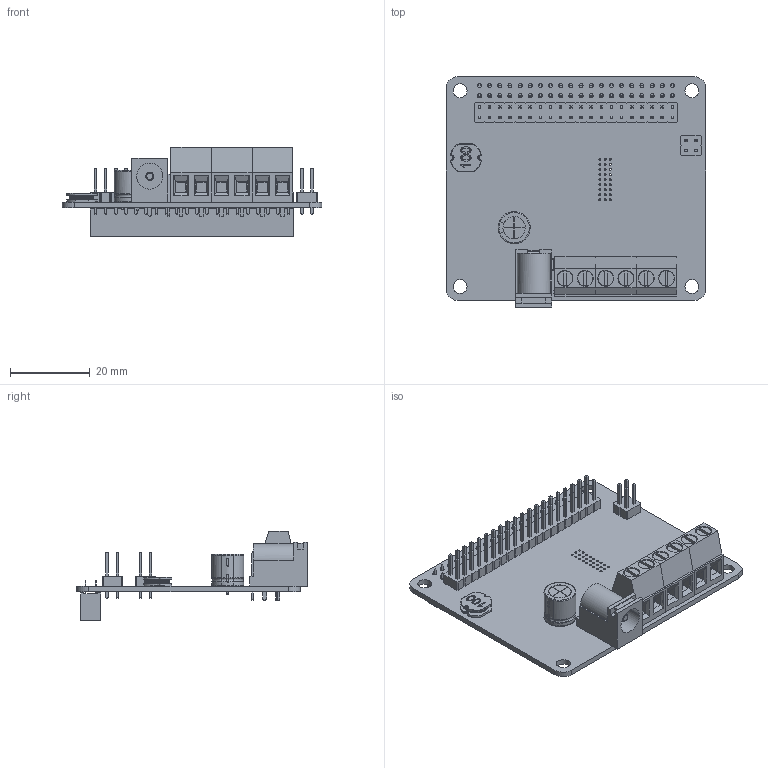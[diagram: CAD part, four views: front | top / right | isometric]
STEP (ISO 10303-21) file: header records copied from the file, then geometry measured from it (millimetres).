
FILE_DESCRIPTION(('FreeCAD Model'),'2;1');
FILE_NAME('Open CASCADE Shape Model','2023-09-13T15:15:47',( 'Joerg Schambacher'),('HiFiBerry Deutschland GmbH'), 'Open CASCADE STEP processor 7.6','FreeCAD','Unknown');
FILE_SCHEMA(('AUTOMOTIVE_DESIGN { 1 0 10303 214 1 1 1 1 }'));
Length unit declared in the file: millimetre
Products named in the file (18): board_amp4 1; SDE0805A; COMPOUND; PinSocket_2x20_P2.54mm_Vertical; SOLID; TerminalBlock_Phoenix_MKDS-1,5-2-5.08_1x02_P5.08mm_Horizontal; SOLID001; TerminalBlock_Phoenix_MKDS-1,5-2-5.08_1x02_P5.08mm_Horizontal001; TerminalBlock_Phoenix_MKDS-1,5-2-5.08_1x02_P5.08mm_Horizontal002; CUI_PJ-102A; COMPOUND001; CP_Radial_D8.0mm_P3.80mm; SOLID004; PinHeader_2x20_P2.54mm_Vertical; SOLID005; PinHeader_2x02_P2.54mm_Vertical; SOLID006; board_amp4 PCB
Assembly tree (19 placements, depth 3):
  board_amp4 1
    SDE0805A
      COMPOUND
    PinSocket_2x20_P2.54mm_Vertical
      SOLID
    TerminalBlock_Phoenix_MKDS-1,5-2-5.08_1x02_P5.08mm_Horizontal
      SOLID001
    TerminalBlock_Phoenix_MKDS-1,5-2-5.08_1x02_P5.08mm_Horizontal001
      SOLID001
    TerminalBlock_Phoenix_MKDS-1,5-2-5.08_1x02_P5.08mm_Horizontal002
      SOLID001
    CUI_PJ-102A
      COMPOUND001
    CP_Radial_D8.0mm_P3.80mm
      SOLID004
    PinHeader_2x20_P2.54mm_Vertical
      SOLID005
    PinHeader_2x02_P2.54mm_Vertical
      SOLID006
    board_amp4 PCB
Bounding box: 65 x 57.71 x 22.5 mm (x, y, z)
Volume: 11985.3 mm3; surface area: 17992.4 mm2
Topology: 18 solids, 19 shells, 2951 faces, 8916 edges, 10793 vertices
Faces by surface type: bspline 2806, cylinder 133, plane 12
Full cylindrical faces by diameter (mm): 0.508 x27, 0.8 x2, 1 x44, 1.016 x40, 1.32 x6, 3.5 x4
Entity records: 233413 total; most frequent: CARTESIAN_POINT 162485, ORIENTED_EDGE 13878, B_SPLINE_CURVE_WITH_KNOTS 7517, EDGE_CURVE 6939, VERTEX_POINT 4425, FACE_BOUND 3256, EDGE_LOOP 3256, SURFACE_STYLE_USAGE 2833
